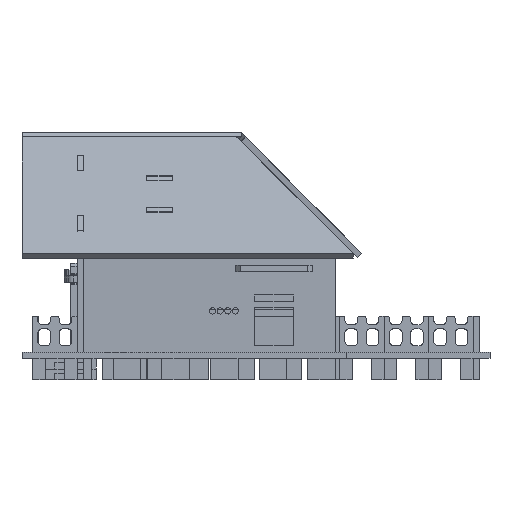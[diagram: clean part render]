
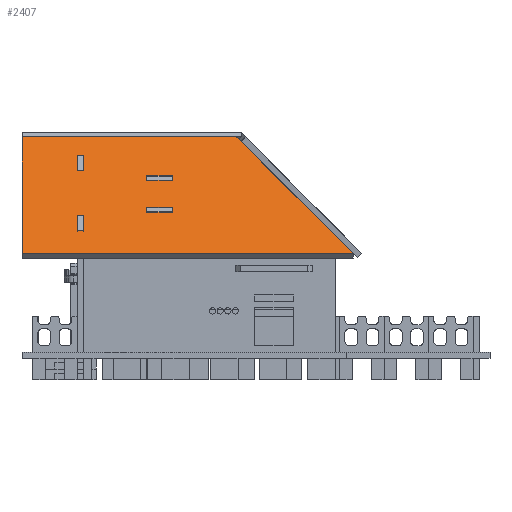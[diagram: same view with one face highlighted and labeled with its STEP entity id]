
A CAD part, left-side view. The second image highlights one B-rep face of the part: STEP entity #2407.
In plain terms, the highlighted planar face has unit normal (-0.707, 0, 0.707).
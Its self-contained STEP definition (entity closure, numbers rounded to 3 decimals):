
#431=FACE_BOUND('',#6698,.T.);
#432=FACE_BOUND('',#6699,.T.);
#433=FACE_BOUND('',#6700,.T.);
#434=FACE_BOUND('',#6701,.T.);
#2407=ADVANCED_FACE('',(#4421,#431,#432,#433,#434),#35211,.T.);
#4421=FACE_OUTER_BOUND('',#6697,.T.);
#6697=EDGE_LOOP('',(#17815,#17816,#17817,#17818));
#6698=EDGE_LOOP('',(#17819,#17820,#17821,#17822));
#6699=EDGE_LOOP('',(#17823,#17824,#17825,#17826));
#6700=EDGE_LOOP('',(#17827,#17828,#17829,#17830));
#6701=EDGE_LOOP('',(#17831,#17832,#17833,#17834));
#17815=ORIENTED_EDGE('',*,*,#23677,.F.);
#17816=ORIENTED_EDGE('',*,*,#23674,.F.);
#17817=ORIENTED_EDGE('',*,*,#23671,.F.);
#17818=ORIENTED_EDGE('',*,*,#23667,.F.);
#17819=ORIENTED_EDGE('',*,*,#23680,.F.);
#17820=ORIENTED_EDGE('',*,*,#23681,.F.);
#17821=ORIENTED_EDGE('',*,*,#23682,.F.);
#17822=ORIENTED_EDGE('',*,*,#23679,.F.);
#17823=ORIENTED_EDGE('',*,*,#23692,.F.);
#17824=ORIENTED_EDGE('',*,*,#23693,.F.);
#17825=ORIENTED_EDGE('',*,*,#23694,.F.);
#17826=ORIENTED_EDGE('',*,*,#23691,.F.);
#17827=ORIENTED_EDGE('',*,*,#23704,.F.);
#17828=ORIENTED_EDGE('',*,*,#23705,.F.);
#17829=ORIENTED_EDGE('',*,*,#23706,.F.);
#17830=ORIENTED_EDGE('',*,*,#23703,.F.);
#17831=ORIENTED_EDGE('',*,*,#23716,.F.);
#17832=ORIENTED_EDGE('',*,*,#23717,.F.);
#17833=ORIENTED_EDGE('',*,*,#23718,.F.);
#17834=ORIENTED_EDGE('',*,*,#23715,.F.);
#23667=EDGE_CURVE('',#33208,#33209,#29356,.T.);
#23671=EDGE_CURVE('',#33209,#33212,#29360,.T.);
#23674=EDGE_CURVE('',#33212,#33214,#29363,.T.);
#23677=EDGE_CURVE('',#33214,#33208,#29366,.T.);
#23679=EDGE_CURVE('',#33216,#33217,#29368,.T.);
#23680=EDGE_CURVE('',#33218,#33216,#29369,.T.);
#23681=EDGE_CURVE('',#33219,#33218,#29370,.T.);
#23682=EDGE_CURVE('',#33217,#33219,#29371,.T.);
#23691=EDGE_CURVE('',#33224,#33225,#29380,.T.);
#23692=EDGE_CURVE('',#33226,#33224,#29381,.T.);
#23693=EDGE_CURVE('',#33227,#33226,#29382,.T.);
#23694=EDGE_CURVE('',#33225,#33227,#29383,.T.);
#23703=EDGE_CURVE('',#33232,#33233,#29392,.T.);
#23704=EDGE_CURVE('',#33234,#33232,#29393,.T.);
#23705=EDGE_CURVE('',#33235,#33234,#29394,.T.);
#23706=EDGE_CURVE('',#33233,#33235,#29395,.T.);
#23715=EDGE_CURVE('',#33240,#33241,#29404,.T.);
#23716=EDGE_CURVE('',#33242,#33240,#29405,.T.);
#23717=EDGE_CURVE('',#33243,#33242,#29406,.T.);
#23718=EDGE_CURVE('',#33241,#33243,#29407,.T.);
#29356=B_SPLINE_CURVE_WITH_KNOTS('',1,(#59901,#59902),.UNSPECIFIED.,.F.,
 .F.,(2,2),(0.,101.331),.UNSPECIFIED.);
#29360=B_SPLINE_CURVE_WITH_KNOTS('',1,(#59909,#59910),.UNSPECIFIED.,.F.,
 .F.,(2,2),(101.331,196.859),.UNSPECIFIED.);
#29363=B_SPLINE_CURVE_WITH_KNOTS('',1,(#59915,#59916),.UNSPECIFIED.,.F.,
 .F.,(2,2),(196.859,353.343),.UNSPECIFIED.);
#29366=B_SPLINE_CURVE_WITH_KNOTS('',1,(#59921,#59922),.UNSPECIFIED.,.F.,
 .F.,(2,2),(353.343,431.341),.UNSPECIFIED.);
#29368=B_SPLINE_CURVE_WITH_KNOTS('',1,(#59925,#59926),.UNSPECIFIED.,.F.,
 .F.,(2,2),(-29.145,-26.145),.UNSPECIFIED.);
#29369=B_SPLINE_CURVE_WITH_KNOTS('',1,(#59927,#59928),.UNSPECIFIED.,.F.,
 .F.,(2,2),(58.939,70.939),.UNSPECIFIED.);
#29370=B_SPLINE_CURVE_WITH_KNOTS('',1,(#59929,#59930),.UNSPECIFIED.,.F.,
 .F.,(2,2),(26.145,29.145),.UNSPECIFIED.);
#29371=B_SPLINE_CURVE_WITH_KNOTS('',1,(#59931,#59932),.UNSPECIFIED.,.F.,
 .F.,(2,2),(-70.939,-58.939),.UNSPECIFIED.);
#29380=B_SPLINE_CURVE_WITH_KNOTS('',1,(#59949,#59950),.UNSPECIFIED.,.F.,
 .F.,(2,2),(-50.145,-47.145),.UNSPECIFIED.);
#29381=B_SPLINE_CURVE_WITH_KNOTS('',1,(#59951,#59952),.UNSPECIFIED.,.F.,
 .F.,(2,2),(58.939,70.939),.UNSPECIFIED.);
#29382=B_SPLINE_CURVE_WITH_KNOTS('',1,(#59953,#59954),.UNSPECIFIED.,.F.,
 .F.,(2,2),(47.145,50.145),.UNSPECIFIED.);
#29383=B_SPLINE_CURVE_WITH_KNOTS('',1,(#59955,#59956),.UNSPECIFIED.,.F.,
 .F.,(2,2),(-70.939,-58.939),.UNSPECIFIED.);
#29392=B_SPLINE_CURVE_WITH_KNOTS('',1,(#59973,#59974),.UNSPECIFIED.,.F.,
 .F.,(2,2),(26.,29.),.UNSPECIFIED.);
#29393=B_SPLINE_CURVE_WITH_KNOTS('',1,(#59975,#59976),.UNSPECIFIED.,.F.,
 .F.,(2,2),(12.245,22.245),.UNSPECIFIED.);
#29394=B_SPLINE_CURVE_WITH_KNOTS('',1,(#59977,#59978),.UNSPECIFIED.,.F.,
 .F.,(2,2),(-29.,-26.),.UNSPECIFIED.);
#29395=B_SPLINE_CURVE_WITH_KNOTS('',1,(#59979,#59980),.UNSPECIFIED.,.F.,
 .F.,(2,2),(-22.245,-12.245),.UNSPECIFIED.);
#29404=B_SPLINE_CURVE_WITH_KNOTS('',1,(#59997,#59998),.UNSPECIFIED.,.F.,
 .F.,(2,2),(26.,29.),.UNSPECIFIED.);
#29405=B_SPLINE_CURVE_WITH_KNOTS('',1,(#59999,#60000),.UNSPECIFIED.,.F.,
 .F.,(2,2),(52.765,62.765),.UNSPECIFIED.);
#29406=B_SPLINE_CURVE_WITH_KNOTS('',1,(#60001,#60002),.UNSPECIFIED.,.F.,
 .F.,(2,2),(-29.,-26.),.UNSPECIFIED.);
#29407=B_SPLINE_CURVE_WITH_KNOTS('',1,(#60003,#60004),.UNSPECIFIED.,.F.,
 .F.,(2,2),(-62.765,-52.765),.UNSPECIFIED.);
#33208=VERTEX_POINT('',#59861);
#33209=VERTEX_POINT('',#59862);
#33212=VERTEX_POINT('',#59865);
#33214=VERTEX_POINT('',#59867);
#33216=VERTEX_POINT('',#59869);
#33217=VERTEX_POINT('',#59870);
#33218=VERTEX_POINT('',#59871);
#33219=VERTEX_POINT('',#59872);
#33224=VERTEX_POINT('',#59877);
#33225=VERTEX_POINT('',#59878);
#33226=VERTEX_POINT('',#59879);
#33227=VERTEX_POINT('',#59880);
#33232=VERTEX_POINT('',#59885);
#33233=VERTEX_POINT('',#59886);
#33234=VERTEX_POINT('',#59887);
#33235=VERTEX_POINT('',#59888);
#33240=VERTEX_POINT('',#59893);
#33241=VERTEX_POINT('',#59894);
#33242=VERTEX_POINT('',#59895);
#33243=VERTEX_POINT('',#59896);
#35211=PLANE('',#36485);
#36485=AXIS2_PLACEMENT_3D('',#59795,#37675,$);
#37675=DIRECTION('',(-0.707,0.,0.707));
#59795=CARTESIAN_POINT('',(-43.709,140.561,52.622));
#59861=CARTESIAN_POINT('',(18.338,121.,114.669));
#59862=CARTESIAN_POINT('',(18.338,19.669,114.669));
#59865=CARTESIAN_POINT('',(-36.815,-35.484,59.516));
#59867=CARTESIAN_POINT('',(-36.815,121.,59.516));
#59869=CARTESIAN_POINT('',(-2.271,50.061,94.06));
#59870=CARTESIAN_POINT('',(-0.15,50.061,96.181));
#59871=CARTESIAN_POINT('',(-2.271,62.061,94.06));
#59872=CARTESIAN_POINT('',(-0.15,62.061,96.181));
#59877=CARTESIAN_POINT('',(-17.12,50.061,79.211));
#59878=CARTESIAN_POINT('',(-14.999,50.061,81.332));
#59879=CARTESIAN_POINT('',(-17.12,62.061,79.211));
#59880=CARTESIAN_POINT('',(-14.999,62.061,81.332));
#59885=CARTESIAN_POINT('',(2.608,95.,98.939));
#59886=CARTESIAN_POINT('',(2.608,92.,98.939));
#59887=CARTESIAN_POINT('',(9.679,95.,106.01));
#59888=CARTESIAN_POINT('',(9.679,92.,106.01));
#59893=CARTESIAN_POINT('',(-26.044,95.,70.287));
#59894=CARTESIAN_POINT('',(-26.044,92.,70.287));
#59895=CARTESIAN_POINT('',(-18.973,95.,77.358));
#59896=CARTESIAN_POINT('',(-18.973,92.,77.358));
#59901=CARTESIAN_POINT('',(18.338,121.,114.669));
#59902=CARTESIAN_POINT('',(18.338,19.669,114.669));
#59909=CARTESIAN_POINT('',(18.338,19.669,114.669));
#59910=CARTESIAN_POINT('',(-36.815,-35.484,59.516));
#59915=CARTESIAN_POINT('',(-36.815,-35.484,59.516));
#59916=CARTESIAN_POINT('',(-36.815,121.,59.516));
#59921=CARTESIAN_POINT('',(-36.815,121.,59.516));
#59922=CARTESIAN_POINT('',(18.338,121.,114.669));
#59925=CARTESIAN_POINT('',(-2.271,50.061,94.06));
#59926=CARTESIAN_POINT('',(-0.15,50.061,96.181));
#59927=CARTESIAN_POINT('',(-2.271,62.061,94.06));
#59928=CARTESIAN_POINT('',(-2.271,50.061,94.06));
#59929=CARTESIAN_POINT('',(-0.15,62.061,96.181));
#59930=CARTESIAN_POINT('',(-2.271,62.061,94.06));
#59931=CARTESIAN_POINT('',(-0.15,50.061,96.181));
#59932=CARTESIAN_POINT('',(-0.15,62.061,96.181));
#59949=CARTESIAN_POINT('',(-17.12,50.061,79.211));
#59950=CARTESIAN_POINT('',(-14.999,50.061,81.332));
#59951=CARTESIAN_POINT('',(-17.12,62.061,79.211));
#59952=CARTESIAN_POINT('',(-17.12,50.061,79.211));
#59953=CARTESIAN_POINT('',(-14.999,62.061,81.332));
#59954=CARTESIAN_POINT('',(-17.12,62.061,79.211));
#59955=CARTESIAN_POINT('',(-14.999,50.061,81.332));
#59956=CARTESIAN_POINT('',(-14.999,62.061,81.332));
#59973=CARTESIAN_POINT('',(2.608,95.,98.939));
#59974=CARTESIAN_POINT('',(2.608,92.,98.939));
#59975=CARTESIAN_POINT('',(9.679,95.,106.01));
#59976=CARTESIAN_POINT('',(2.608,95.,98.939));
#59977=CARTESIAN_POINT('',(9.679,92.,106.01));
#59978=CARTESIAN_POINT('',(9.679,95.,106.01));
#59979=CARTESIAN_POINT('',(2.608,92.,98.939));
#59980=CARTESIAN_POINT('',(9.679,92.,106.01));
#59997=CARTESIAN_POINT('',(-26.044,95.,70.287));
#59998=CARTESIAN_POINT('',(-26.044,92.,70.287));
#59999=CARTESIAN_POINT('',(-18.973,95.,77.358));
#60000=CARTESIAN_POINT('',(-26.044,95.,70.287));
#60001=CARTESIAN_POINT('',(-18.973,92.,77.358));
#60002=CARTESIAN_POINT('',(-18.973,95.,77.358));
#60003=CARTESIAN_POINT('',(-26.044,92.,70.287));
#60004=CARTESIAN_POINT('',(-18.973,92.,77.358));
